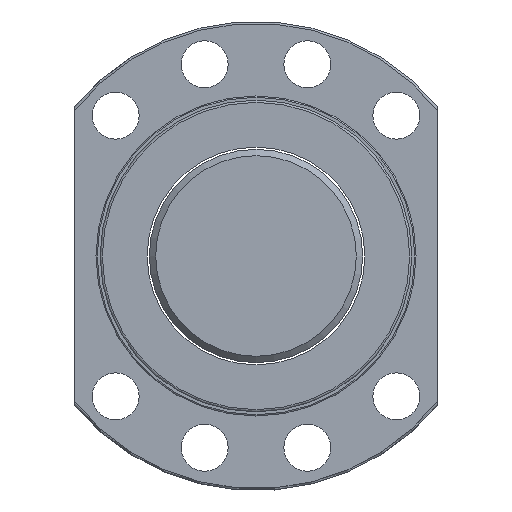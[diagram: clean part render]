
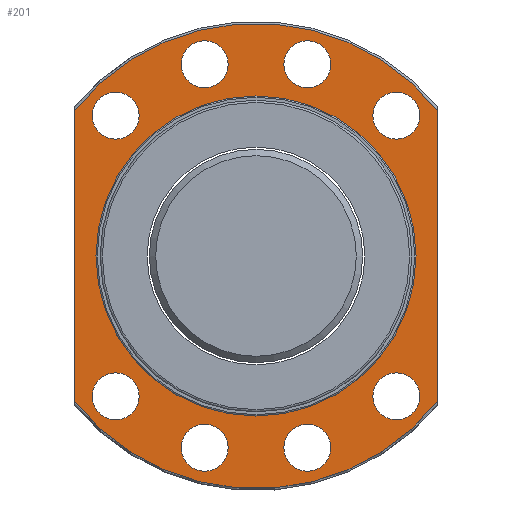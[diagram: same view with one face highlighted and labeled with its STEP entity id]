
A CAD part, left-side view. The second image highlights one B-rep face of the part: STEP entity #201.
In plain terms, the highlighted planar face has unit normal (-1, 0, 0).
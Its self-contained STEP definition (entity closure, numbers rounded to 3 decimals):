
#109=LINE('',#1186,#117);
#110=LINE('',#1187,#118);
#117=VECTOR('',#871,1.);
#118=VECTOR('',#872,1.);
#154=PLANE('',#717);
#174=FACE_OUTER_BOUND('',#342,.T.);
#201=ADVANCED_FACE('',(#254,#255,#256,#257,#258,#259,#260,#261,#262,#174),
#154,.F.);
#254=FACE_BOUND('',#333,.T.);
#255=FACE_BOUND('',#334,.T.);
#256=FACE_BOUND('',#335,.T.);
#257=FACE_BOUND('',#336,.T.);
#258=FACE_BOUND('',#337,.T.);
#259=FACE_BOUND('',#338,.T.);
#260=FACE_BOUND('',#339,.T.);
#261=FACE_BOUND('',#340,.T.);
#262=FACE_BOUND('',#341,.T.);
#333=EDGE_LOOP('',(#438));
#334=EDGE_LOOP('',(#439));
#335=EDGE_LOOP('',(#440));
#336=EDGE_LOOP('',(#441));
#337=EDGE_LOOP('',(#442));
#338=EDGE_LOOP('',(#443));
#339=EDGE_LOOP('',(#444));
#340=EDGE_LOOP('',(#445));
#341=EDGE_LOOP('',(#446));
#342=EDGE_LOOP('',(#447,#448,#449,#450));
#438=ORIENTED_EDGE('',*,*,#593,.T.);
#439=ORIENTED_EDGE('',*,*,#594,.T.);
#440=ORIENTED_EDGE('',*,*,#595,.T.);
#441=ORIENTED_EDGE('',*,*,#596,.T.);
#442=ORIENTED_EDGE('',*,*,#597,.T.);
#443=ORIENTED_EDGE('',*,*,#598,.T.);
#444=ORIENTED_EDGE('',*,*,#599,.T.);
#445=ORIENTED_EDGE('',*,*,#600,.T.);
#446=ORIENTED_EDGE('',*,*,#601,.T.);
#447=ORIENTED_EDGE('',*,*,#602,.F.);
#448=ORIENTED_EDGE('',*,*,#587,.F.);
#449=ORIENTED_EDGE('',*,*,#603,.T.);
#450=ORIENTED_EDGE('',*,*,#591,.F.);
#530=VERTEX_POINT('',#1085);
#531=VERTEX_POINT('',#1086);
#532=VERTEX_POINT('',#1145);
#533=VERTEX_POINT('',#1147);
#534=VERTEX_POINT('',#1169);
#535=VERTEX_POINT('',#1171);
#536=VERTEX_POINT('',#1173);
#537=VERTEX_POINT('',#1175);
#538=VERTEX_POINT('',#1177);
#539=VERTEX_POINT('',#1179);
#540=VERTEX_POINT('',#1181);
#541=VERTEX_POINT('',#1183);
#542=VERTEX_POINT('',#1185);
#587=EDGE_CURVE('',#530,#531,#638,.T.);
#591=EDGE_CURVE('',#532,#533,#639,.T.);
#593=EDGE_CURVE('',#534,#534,#640,.T.);
#594=EDGE_CURVE('',#535,#535,#641,.T.);
#595=EDGE_CURVE('',#536,#536,#642,.T.);
#596=EDGE_CURVE('',#537,#537,#643,.T.);
#597=EDGE_CURVE('',#538,#538,#644,.T.);
#598=EDGE_CURVE('',#539,#539,#645,.T.);
#599=EDGE_CURVE('',#540,#540,#646,.T.);
#600=EDGE_CURVE('',#541,#541,#647,.T.);
#601=EDGE_CURVE('',#542,#542,#648,.T.);
#602=EDGE_CURVE('',#531,#532,#109,.T.);
#603=EDGE_CURVE('',#530,#533,#110,.T.);
#638=CIRCLE('',#704,54.5);
#639=CIRCLE('',#706,54.5);
#640=CIRCLE('',#708,37.5);
#641=CIRCLE('',#709,5.5);
#642=CIRCLE('',#710,5.5);
#643=CIRCLE('',#711,5.5);
#644=CIRCLE('',#712,5.5);
#645=CIRCLE('',#713,5.5);
#646=CIRCLE('',#714,5.5);
#647=CIRCLE('',#715,5.5);
#648=CIRCLE('',#716,5.5);
#704=AXIS2_PLACEMENT_3D('',#1084,#845,#846);
#706=AXIS2_PLACEMENT_3D('',#1146,#849,#850);
#708=AXIS2_PLACEMENT_3D('',#1168,#853,#854);
#709=AXIS2_PLACEMENT_3D('',#1170,#855,#856);
#710=AXIS2_PLACEMENT_3D('',#1172,#857,#858);
#711=AXIS2_PLACEMENT_3D('',#1174,#859,#860);
#712=AXIS2_PLACEMENT_3D('',#1176,#861,#862);
#713=AXIS2_PLACEMENT_3D('',#1178,#863,#864);
#714=AXIS2_PLACEMENT_3D('',#1180,#865,#866);
#715=AXIS2_PLACEMENT_3D('',#1182,#867,#868);
#716=AXIS2_PLACEMENT_3D('',#1184,#869,#870);
#717=AXIS2_PLACEMENT_3D('',#1188,#873,#874);
#845=DIRECTION('',(1.,0.,0.));
#846=DIRECTION('',(0.,1.,0.));
#849=DIRECTION('',(1.,0.,0.));
#850=DIRECTION('',(0.,1.,0.));
#853=DIRECTION('',(1.,0.,0.));
#854=DIRECTION('',(0.,1.,0.));
#855=DIRECTION('',(1.,0.,0.));
#856=DIRECTION('',(0.,1.,0.));
#857=DIRECTION('',(1.,0.,0.));
#858=DIRECTION('',(0.,1.,0.));
#859=DIRECTION('',(1.,0.,0.));
#860=DIRECTION('',(0.,1.,0.));
#861=DIRECTION('',(1.,0.,0.));
#862=DIRECTION('',(0.,1.,0.));
#863=DIRECTION('',(1.,0.,0.));
#864=DIRECTION('',(0.,1.,0.));
#865=DIRECTION('',(1.,0.,0.));
#866=DIRECTION('',(0.,1.,0.));
#867=DIRECTION('',(1.,0.,0.));
#868=DIRECTION('',(0.,1.,0.));
#869=DIRECTION('',(1.,0.,0.));
#870=DIRECTION('',(0.,1.,0.));
#871=DIRECTION('',(0.,0.,1.));
#872=DIRECTION('',(0.,0.,1.));
#873=DIRECTION('',(1.,0.,0.));
#874=DIRECTION('',(0.,1.,0.));
#1084=CARTESIAN_POINT('',(35.175,0.,0.));
#1085=CARTESIAN_POINT('',(35.175,-42.5,-34.117));
#1086=CARTESIAN_POINT('',(35.175,42.5,-34.117));
#1145=CARTESIAN_POINT('',(35.175,42.5,34.117));
#1146=CARTESIAN_POINT('',(35.175,0.,0.));
#1147=CARTESIAN_POINT('',(35.175,-42.5,34.117));
#1168=CARTESIAN_POINT('',(35.175,0.,0.));
#1169=CARTESIAN_POINT('',(35.175,37.5,0.));
#1170=CARTESIAN_POINT('',(35.175,12.035,44.916));
#1171=CARTESIAN_POINT('',(35.175,17.535,44.916));
#1172=CARTESIAN_POINT('',(35.175,-12.035,44.916));
#1173=CARTESIAN_POINT('',(35.175,-6.535,44.916));
#1174=CARTESIAN_POINT('',(35.175,-12.035,-44.916));
#1175=CARTESIAN_POINT('',(35.175,-6.535,-44.916));
#1176=CARTESIAN_POINT('',(35.175,12.035,-44.916));
#1177=CARTESIAN_POINT('',(35.175,17.535,-44.916));
#1178=CARTESIAN_POINT('',(35.175,-32.881,32.881));
#1179=CARTESIAN_POINT('',(35.175,-27.381,32.881));
#1180=CARTESIAN_POINT('',(35.175,32.88,32.881));
#1181=CARTESIAN_POINT('',(35.175,38.38,32.881));
#1182=CARTESIAN_POINT('',(35.175,-32.881,-32.881));
#1183=CARTESIAN_POINT('',(35.175,-27.381,-32.881));
#1184=CARTESIAN_POINT('',(35.175,32.88,-32.881));
#1185=CARTESIAN_POINT('',(35.175,38.38,-32.881));
#1186=CARTESIAN_POINT('',(35.175,42.5,0.));
#1187=CARTESIAN_POINT('',(35.175,-42.5,0.));
#1188=CARTESIAN_POINT('',(35.175,46.,0.));
